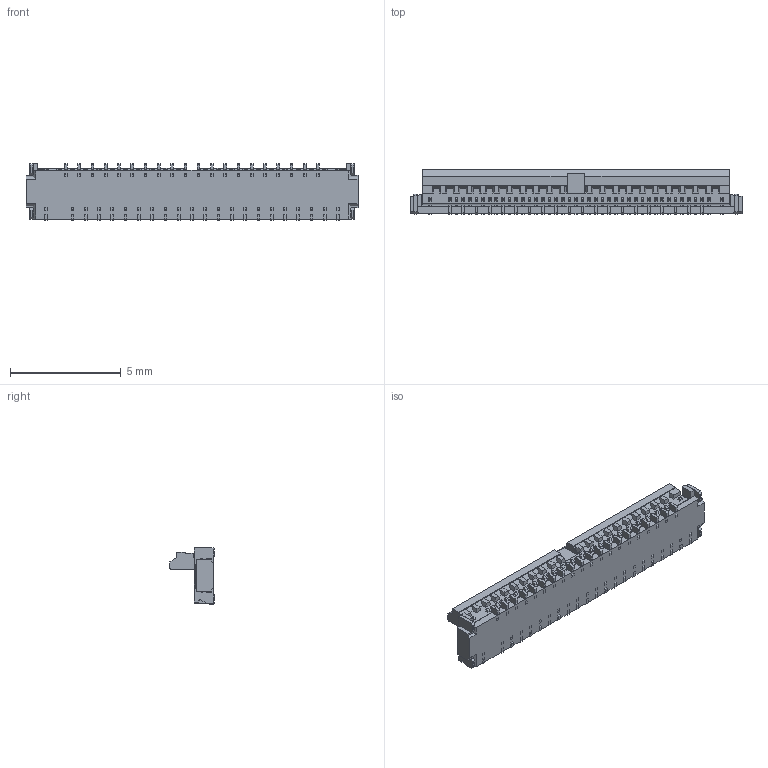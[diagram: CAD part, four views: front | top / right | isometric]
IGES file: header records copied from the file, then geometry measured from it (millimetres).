
Start section: SolidWorks IGES file using analytic representation for surfaces
Global section: file name: C:\3dworks\摗堜\170920_3D儌僨儖\廋惓\MFX3-BFN L-LK-HD (20655)\40P\20655-040ExC ASS'Y ACT OPEN STEP R0 ALL.IGS; native system: SolidWorks 2014; preprocessor: SolidWorks 2014; author: ieng2-005; date: 170929.173826; units: millimetre
Bounding box: 15 x 2 x 2.55 mm (x, y, z)
Surface area: 153.5 mm2 (no closed solid volume)
Topology: 0 solids, 0 shells, 2002 faces, 12062 edges, 12062 vertices
Faces by surface type: bspline 1686, revolution 316
